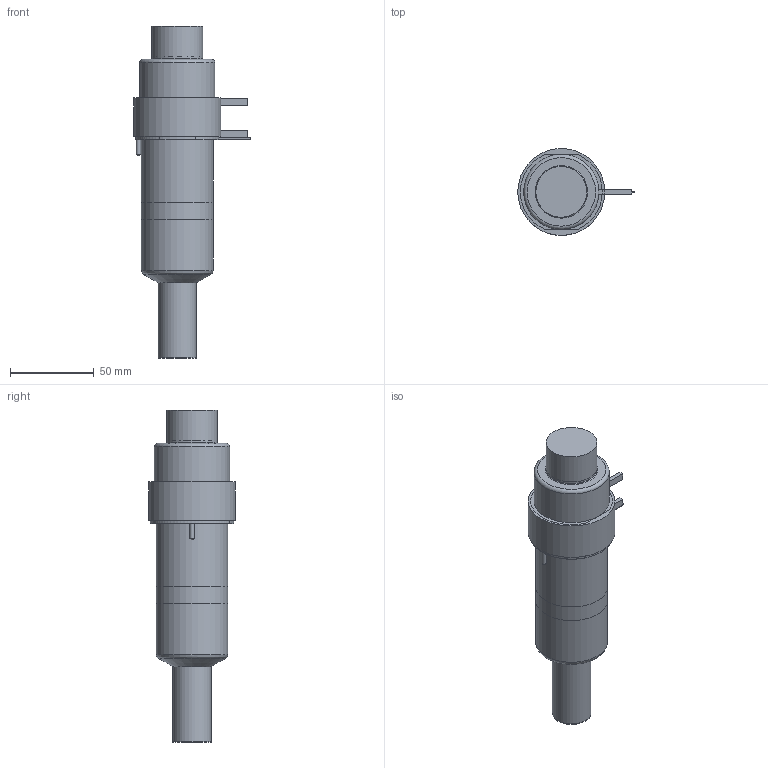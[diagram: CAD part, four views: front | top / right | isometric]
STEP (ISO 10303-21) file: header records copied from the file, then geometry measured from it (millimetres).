
FILE_DESCRIPTION(/* description */ (''),/* implementation_level */ '2;1');
FILE_NAME(/* name */ 'SXYCN27095N3U_200C_a',/* time_stamp */ '2016-03-04T14:05:54+13:00',/* author */ (''),/* organization */ (''),/* preprocessor_version */ 'ST-DEVELOPER v9',/* originating_system */ 'UGS - NX 4.0',/* authorisation */ '');
FILE_SCHEMA (('CONFIG_CONTROL_DESIGN'));
Length unit declared in the file: millimetre
Products named in the file (1): mattD74Dhes3
Bounding box: 69.6 x 52 x 198.55 mm (x, y, z)
Volume: 435556.8 mm3; surface area: 58835.1 mm2
Topology: 7 solids, 7 shells, 91 faces, 176 edges, 113 vertices
Faces by surface type: plane 43, cylinder 29, torus 9, cone 8, bspline 1, sphere 1
Full cylindrical faces by diameter (mm): 1 x3, 2.5 x3, 12 x2, 22.61 x1, 22.995 x2, 27.5 x1, 30 x1, 30.4 x1, 38.1 x2, 43 x2, 45 x1, 50 x1, 52 x1
Entity records: 2357 total; most frequent: CARTESIAN_POINT 540, DIRECTION 380, ORIENTED_EDGE 276, AXIS2_PLACEMENT_3D 165, EDGE_LOOP 138, EDGE_CURVE 138, VERTEX_POINT 109, ADVANCED_FACE 91
